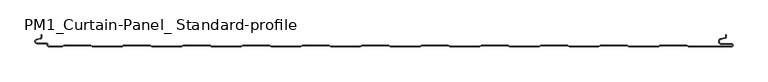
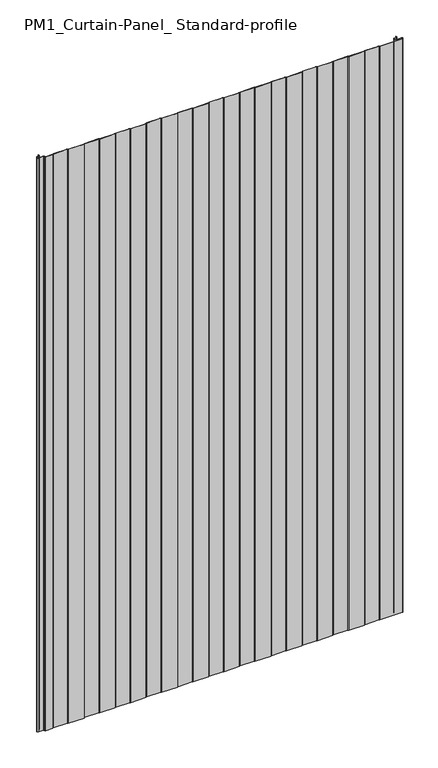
"""IFC4 building model written with IfcOpenShell, lengths in millimetres: plate geometry, PM1_Curtain-Panel_ Standard-profile : ACH_PM1_Acoustic-Sectioning-Panel_150M."""

import ifcopenshell
import ifcopenshell.guid

model = None  # the IFC model being written
_history = None  # IfcOwnerHistory: only IFC2X3 demands one
_inside = {}  # id of a spatial element -> (the spatial element, [elements in it])
_under = {}  # id of a project, library or spatial element -> (it, [spatial elements below it])
_declared = {}  # id of a project -> (the project, [libraries it declares])
_typed = {}  # id of a type object -> (the type object, [elements of that type])
_made_of = {}  # id of a material, layer set ... -> (it, [elements and type objects made of it])


def new_model(schema):
    """Start an empty IFC model of exactly this schema.

    Asked for "IFC4X3", IfcOpenShell would pick the latest addendum, in which some entities
    have other attributes; the version numbers below select the first issue.
    IFC2X3 requires an IfcOwnerHistory on every rooted entity: one is made here for all.
    """
    global model, _history
    if schema == "IFC4X3":
        model = ifcopenshell.file(schema_version=(4, 3, 0, 0))
    else:
        model = ifcopenshell.file(schema=schema)
    _inside.clear()
    _under.clear()
    _declared.clear()
    _typed.clear()
    _made_of.clear()
    _history = None
    if model.schema == "IFC2X3":
        org = make("IfcOrganization", Name="unknown")
        user = make(
            "IfcPersonAndOrganization",
            ThePerson=make("IfcPerson", FamilyName="unknown"),
            TheOrganization=org,
        )
        app = make(
            "IfcApplication",
            ApplicationDeveloper=org,
            Version="unknown",
            ApplicationFullName="unknown",
            ApplicationIdentifier="unknown",
        )
        _history = make(
            "IfcOwnerHistory",
            OwningUser=user,
            OwningApplication=app,
            ChangeAction="ADDED",
            CreationDate=0,
        )
    return model


def make(cls, **values):
    """One entity of the class cls with the attributes given. An attribute that is None is left unset."""
    return model.create_entity(
        cls, **{name: value for name, value in values.items() if value is not None}
    )


def rooted(cls, **values):
    """An entity with a GlobalId (a new one), such as an element, a storey or a relation."""
    return make(cls, GlobalId=ifcopenshell.guid.new(), OwnerHistory=_history, **values)


def si_unit(unit_type, name, prefix=None):
    """IfcSIUnit, for example si_unit("LENGTHUNIT", "METRE", prefix="MILLI")."""
    return make("IfcSIUnit", UnitType=unit_type, Prefix=prefix, Name=name)


def assignment(units):
    """IfcUnitAssignment: the units of a project."""
    return None if units is None else make("IfcUnitAssignment", Units=units)


def point(xyz):
    """IfcCartesianPoint."""
    return None if xyz is None else make("IfcCartesianPoint", Coordinates=xyz)


def direction(xyz):
    """IfcDirection."""
    return None if xyz is None else make("IfcDirection", DirectionRatios=xyz)


def frame(location, z_axis=None, x_axis=None):
    """IfcAxis2Placement3D, a coordinate frame: its origin and axes. An axis left out is left unset."""
    return make(
        "IfcAxis2Placement3D",
        Location=point(location),
        Axis=direction(z_axis),
        RefDirection=direction(x_axis),
    )


def origin():
    """The frame at (0, 0, 0) with its axes left unset."""
    return frame((0.0, 0.0, 0.0))


def place(relative_to, where):
    """IfcLocalPlacement: puts the frame where relative to a parent placement (None: the world)."""
    return make(
        "IfcLocalPlacement", PlacementRelTo=relative_to, RelativePlacement=where
    )


def context(
    kind, dimensions, precision=None, world=None, true_north=None, identifier=None
):
    """IfcGeometricRepresentationContext, for example the 3D "Model" context."""
    return make(
        "IfcGeometricRepresentationContext",
        ContextIdentifier=identifier,
        ContextType=kind,
        CoordinateSpaceDimension=dimensions,
        Precision=precision,
        WorldCoordinateSystem=world,
        TrueNorth=true_north,
    )


def project(units=None, contexts=None):
    """IfcProject with its units and contexts."""
    return rooted(
        "IfcProject",
        Name="project",
        RepresentationContexts=contexts,
        UnitsInContext=assignment(units),
    )


def spatial(cls, under=None, at=None, **own):
    """A site, building, storey or space (cls), placed at a placement, below another one or the project."""
    s = rooted(cls, ObjectPlacement=at, **own)
    if under is not None:
        _under.setdefault(under.id(), (under, []))[1].append(s)
    return s


def polyline(points):
    """IfcPolyline through the points."""
    return make("IfcPolyline", Points=[point(p) for p in points])


def circle_curve(where, radius):
    """IfcCircle in the frame where."""
    return make("IfcCircle", Position=where, Radius=radius)


def shape(context_of_items, identifier, shape_type, items):
    """IfcShapeRepresentation: the items that make up one representation, for example the "Body"."""
    return make(
        "IfcShapeRepresentation",
        ContextOfItems=context_of_items,
        RepresentationIdentifier=identifier,
        RepresentationType=shape_type,
        Items=items,
    )


def source(mapping_origin, context_of_items, identifier, shape_type, items):
    """IfcRepresentationMap: a shape defined once, which mapped items show again and again."""
    return make(
        "IfcRepresentationMap",
        MappingOrigin=mapping_origin,
        MappedRepresentation=shape(context_of_items, identifier, shape_type, items),
    )


def transform(
    local_origin,
    x_axis=None,
    y_axis=None,
    z_axis=None,
    scale=None,
    scale2=None,
    scale3=None,
    uniform=True,
):
    """IfcCartesianTransformationOperator3D, or its non-uniform kind. x_axis, y_axis, z_axis: its Axis1, 2, 3."""
    if uniform:
        return make(
            "IfcCartesianTransformationOperator3D",
            Axis1=direction(x_axis),
            Axis2=direction(y_axis),
            LocalOrigin=point(local_origin),
            Scale=scale,
            Axis3=direction(z_axis),
        )
    return make(
        "IfcCartesianTransformationOperator3DnonUniform",
        Axis1=direction(x_axis),
        Axis2=direction(y_axis),
        LocalOrigin=point(local_origin),
        Scale=scale,
        Axis3=direction(z_axis),
        Scale2=scale2,
        Scale3=scale3,
    )


def mapped(mapping_source, mapping_target):
    """IfcMappedItem: shows the shape of a source again, moved by a transform."""
    return make(
        "IfcMappedItem", MappingSource=mapping_source, MappingTarget=mapping_target
    )


def made_of(thing, what):
    """Note that an element or type object is made of a material, layer set ...; save() writes the relation."""
    if what is not None:
        _made_of.setdefault(what.id(), (what, []))[1].append(thing)
    return thing


def element(
    cls,
    number,
    at=None,
    inside=None,
    cuts=None,
    type_object=None,
    material=None,
    context=None,
    identifier="Body",
    shape_type=None,
    held_by="IfcProductDefinitionShape",
    body=None,
    shapes=None,
    **own,
):
    """One element of the class cls, such as IfcWall. Its Tag is "e" and its number.

    at: its placement. inside: the storey or other place that contains it. cuts: it is an
    opening in that element (IfcRelVoidsElement). A single representation is given by context,
    identifier, shape_type and body (its items); several are given by shapes. held_by: the class
    of the entity that holds the representations. save() writes the other relations.
    """
    e = rooted(cls, Tag="e%d" % number, ObjectPlacement=at, **own)
    if body is not None:
        shapes = [shape(context, identifier, shape_type, body)]
    if shapes is not None:
        e.Representation = make(held_by, Representations=shapes)
    if inside is not None:
        _inside.setdefault(inside.id(), (inside, []))[1].append(e)
    if cuts is not None:
        rooted(
            "IfcRelVoidsElement", RelatingBuildingElement=cuts, RelatedOpeningElement=e
        )
    if type_object is not None:
        _typed.setdefault(type_object.id(), (type_object, []))[1].append(e)
    return made_of(e, material)


def aggregate(whole, parts):
    """IfcRelAggregates: a whole, such as a stair, and the parts it consists of."""
    return rooted("IfcRelAggregates", RelatingObject=whole, RelatedObjects=parts)


def save(model, path):
    """Write the relations noted so far, then the file.

    IfcRelAggregates (storeys below a building ...), IfcRelContainedInSpatialStructure (elements
    in a storey), IfcRelDefinesByType, IfcRelAssociatesMaterial and IfcRelDeclares: one each for
    every whole, place, type object, material and project.
    """
    for whole, parts in _under.values():
        aggregate(whole, parts)
    for where, things in _inside.values():
        rooted(
            "IfcRelContainedInSpatialStructure",
            RelatedElements=things,
            RelatingStructure=where,
        )
    for kind, things in _typed.values():
        rooted("IfcRelDefinesByType", RelatedObjects=things, RelatingType=kind)
    for what, things in _made_of.values():
        rooted("IfcRelAssociatesMaterial", RelatedObjects=things, RelatingMaterial=what)
    for by, libraries in _declared.values():
        rooted("IfcRelDeclares", RelatingContext=by, RelatedDefinitions=libraries)
    model.write(path)


def plane_surface(at):
    """IfcPlane: the flat surface through the origin of the frame at, square to its z axis."""
    return make("IfcPlane", Position=at)


def cylinder_surface(at, radius):
    """IfcCylindricalSurface: all points at the distance radius from the z axis of the frame at."""
    return make("IfcCylindricalSurface", Position=at, Radius=radius)


def revolved_surface(curve, axis_point, axis_direction):
    """IfcSurfaceOfRevolution: the curve turned about the line through axis_point along axis_direction."""
    return make(
        "IfcSurfaceOfRevolution",
        SweptCurve=make("IfcArbitraryOpenProfileDef", ProfileType="CURVE", Curve=curve),
        AxisPosition=make("IfcAxis1Placement", Location=point(axis_point), Axis=direction(axis_direction)),
    )


def advanced_brep(points, edges, surfaces, faces):
    """IfcAdvancedBrep: a solid bounded by faces that lie on surfaces and meet in shared edges.

    An edge is (start, end): straight between two places in points (the first is 0);
    or (start, end, curve); or (start, end, curve, False) where it runs against its curve.
    A face is (place in surfaces, loops), or (place, loops, False) where it looks against
    its surface's normal. A loop lists edges by number (the first is 1), with a minus sign
    where the edge is run from its end to its start. The first loop is the outer one.
    """
    corners = [point(p) for p in points]
    vertices = [make("IfcVertexPoint", VertexGeometry=c) for c in corners]
    made = []
    for start, end, *more in edges:
        made.append(
            make(
                "IfcEdgeCurve",
                EdgeStart=vertices[start],
                EdgeEnd=vertices[end],
                EdgeGeometry=more[0] if more else make("IfcPolyline", Points=[corners[start], corners[end]]),
                SameSense=more[1] if len(more) > 1 else True,
            )
        )
    hull = []
    for where, loops, *sense in faces:
        bounds = []
        for j, loop in enumerate(loops):
            ring = [make("IfcOrientedEdge", EdgeElement=made[abs(k) - 1], Orientation=k > 0) for k in loop]
            bounds.append(
                make(
                    "IfcFaceOuterBound" if j == 0 else "IfcFaceBound",
                    Bound=make("IfcEdgeLoop", EdgeList=ring),
                    Orientation=True,
                )
            )
        hull.append(make("IfcAdvancedFace", Bounds=bounds, FaceSurface=surfaces[where], SameSense=sense[0] if sense else True))
    return make("IfcAdvancedBrep", Outer=make("IfcClosedShell", CfsFaces=hull))


def pm1_curtain_panel_standard_profile_bfe30813(model_context):
    return source(origin(), model_context, "Body", "AdvancedBrep", [
        advanced_brep(
        [(-562.4, -150.0, 1945.7507136), (-539.3999999, -150.0, 1945.7507136), (-536.8019223, -148.5, 1945.7507136), (-492.0019247, -148.5, 1945.7507136), (-489.4038471, -150.0, 1945.7507136), (-439.3999999, -150.0, 1945.7507136), (-436.8019223, -148.5, 1945.7507136), (-392.0019247, -148.5, 1945.7507136), (-389.4038471, -150.0, 1945.7507136), (-339.3999999, -150.0, 1945.7507136), (-336.8019223, -148.5, 1945.7507136), (-292.0019247, -148.5, 1945.7507136), (-289.4038471, -150.0, 1945.7507136), (-239.3999999, -150.0, 1945.7507136), (-236.8019223, -148.5, 1945.7507136), (-192.0019247, -148.5, 1945.7507136), (-189.4038471, -150.0, 1945.7507136), (-139.3999999, -150.0, 1945.7507136), (-136.8019223, -148.5, 1945.7507136), (-92.0019247, -148.5, 1945.7507136), (-89.4038471, -150.0, 1945.7507136), (-39.3999999, -150.0, 1945.7507136), (-36.8019223, -148.5, 1945.7507136), (7.9980753, -148.5, 1945.7507136), (10.5961529, -150.0, 1945.7507136), (60.6000001, -150.0, 1945.7507136), (63.1980777, -148.5, 1945.7507136), (107.9980753, -148.5, 1945.7507136), (110.5961529, -150.0, 1945.7507136), (160.6000001, -150.0, 1945.7507136), (163.1980777, -148.5, 1945.7507136), (207.9980753, -148.5, 1945.7507136), (210.5961529, -150.0, 1945.7507136), (260.6000001, -150.0, 1945.7507136), (263.1980777, -148.5, 1945.7507136), (307.9980753, -148.5, 1945.7507136), (310.5961529, -150.0, 1945.7507136), (360.6000001, -150.0, 1945.7507136), (363.1980777, -148.5, 1945.7507136), (407.9980753, -148.5, 1945.7507136), (410.5961529, -150.0, 1945.7507136), (460.6000001, -150.0, 1945.7507136), (463.1980777, -148.5, 1945.7507136), (507.9980753, -148.5, 1945.7507136), (510.5961529, -150.0, 1945.7507136), (583.1, -150.0, 1945.7507136), (585.6, -147.5, 1945.7507136), (583.1, -145.0, 1945.7507136), (566.1, -145.0, 1945.7507136), (565.4054075, -137.060769, 1945.7507136), (571.8514851, -135.924152, 1945.7507136), (574.0, -133.363652, 1945.7507136), (574.0, -130.0, 1945.7507136), (573.2, -130.0, 1945.7507136), (573.2, -133.363652, 1945.7507136), (571.7125666, -135.136306, 1945.7507136), (565.266489, -136.2729229, 1945.7507136), (566.1, -145.8, 1945.7507136), (583.1, -145.8, 1945.7507136), (583.1, -149.2, 1945.7507136), (510.8105122, -149.2, 1945.7507136), (508.2124346, -147.7, 1945.7507136), (462.9837184, -147.7, 1945.7507136), (460.3856408, -149.2, 1945.7507136), (410.8105122, -149.2, 1945.7507136), (408.2124346, -147.7, 1945.7507136), (362.9837184, -147.7, 1945.7507136), (360.3856408, -149.2, 1945.7507136), (310.8105122, -149.2, 1945.7507136), (308.2124346, -147.7, 1945.7507136), (262.9837184, -147.7, 1945.7507136), (260.3856408, -149.2, 1945.7507136), (210.8105122, -149.2, 1945.7507136), (208.2124346, -147.7, 1945.7507136), (162.9837184, -147.7, 1945.7507136), (160.3856408, -149.2, 1945.7507136), (110.8105122, -149.2, 1945.7507136), (108.2124346, -147.7, 1945.7507136), (62.9837184, -147.7, 1945.7507136), (60.3856408, -149.2, 1945.7507136), (10.8105122, -149.2, 1945.7507136), (8.2124346, -147.7, 1945.7507136), (-37.0162816, -147.7, 1945.7507136), (-39.6143592, -149.2, 1945.7507136), (-89.1894878, -149.2, 1945.7507136), (-91.7875654, -147.7, 1945.7507136), (-137.0162816, -147.7, 1945.7507136), (-139.6143592, -149.2, 1945.7507136), (-189.1894878, -149.2, 1945.7507136), (-191.7875654, -147.7, 1945.7507136), (-237.0162816, -147.7, 1945.7507136), (-239.6143592, -149.2, 1945.7507136), (-289.1894878, -149.2, 1945.7507136), (-291.7875654, -147.7, 1945.7507136), (-337.0162816, -147.7, 1945.7507136), (-339.6143592, -149.2, 1945.7507136), (-389.1894878, -149.2, 1945.7507136), (-391.7875654, -147.7, 1945.7507136), (-437.0162816, -147.7, 1945.7507136), (-439.6143592, -149.2, 1945.7507136), (-489.1894878, -149.2, 1945.7507136), (-491.7875654, -147.7, 1945.7507136), (-537.0162816, -147.7, 1945.7507136), (-539.6143592, -149.2, 1945.7507136), (-562.4, -149.2, 1945.7507136), (-563.6, -148.0, 1945.7507136), (-563.6, -146.6, 1945.7507136), (-566.4, -143.8, 1945.7507136), (-581.9, -143.8, 1945.7507136), (-582.529863, -138.2717638, 1945.7507136), (-576.370137, -136.849679, 1945.7507136), (-574.2, -134.121443, 1945.7507136), (-574.2, -130.0, 1945.7507136), (-575.0, -130.0, 1945.7507136), (-575.0, -134.121443, 1945.7507136), (-576.5500978, -136.0701831, 1945.7507136), (-582.7098239, -137.492268, 1945.7507136), (-581.9, -144.6, 1945.7507136), (-566.4, -144.6, 1945.7507136), (-564.4, -146.6, 1945.7507136), (-564.4, -148.0, 1945.7507136), (-562.4, -150.0, 0.0), (-564.4, -148.0, 0.0), (-564.4, -146.6, 0.0), (-566.4, -144.6, 0.0), (-581.9, -144.6, 0.0), (-582.7098239, -137.4922678, 0.0), (-576.5500979, -136.070183, 0.0), (-575.0, -134.121443, 0.0), (-575.0, -130.0, 0.0), (-574.2, -130.0, 0.0), (-574.2, -134.121443, 0.0), (-576.370137, -136.8496792, 0.0), (-582.529863, -138.271764, 0.0), (-581.9, -143.8, 0.0), (-566.4, -143.8, 0.0), (-563.6, -146.6, 0.0), (-563.6, -148.0, 0.0), (-562.4, -149.2, 0.0), (-539.6143592, -149.2, 0.0), (-537.0162816, -147.7, 0.0), (-491.7875654, -147.7, 0.0), (-489.1894878, -149.2, 0.0), (-439.6143592, -149.2, 0.0), (-437.0162816, -147.7, 0.0), (-391.7875654, -147.7, 0.0), (-389.1894878, -149.2, 0.0), (-339.6143592, -149.2, 0.0), (-337.0162816, -147.7, 0.0), (-291.7875654, -147.7, 0.0), (-289.1894878, -149.2, 0.0), (-239.6143592, -149.2, 0.0), (-237.0162816, -147.7, 0.0), (-191.7875654, -147.7, 0.0), (-189.1894878, -149.2, 0.0), (-139.6143592, -149.2, 0.0), (-137.0162816, -147.7, 0.0), (-91.7875654, -147.7, 0.0), (-89.1894878, -149.2, 0.0), (-39.6143592, -149.2, 0.0), (-37.0162816, -147.7, 0.0), (8.2124346, -147.7, 0.0), (10.8105122, -149.2, 0.0), (60.3856408, -149.2, 0.0), (62.9837184, -147.7, 0.0), (108.2124346, -147.7, 0.0), (110.8105122, -149.2, 0.0), (160.3856408, -149.2, 0.0), (162.9837184, -147.7, 0.0), (208.2124346, -147.7, 0.0), (210.8105122, -149.2, 0.0), (260.3856408, -149.2, 0.0), (262.9837184, -147.7, 0.0), (308.2124346, -147.7, 0.0), (310.8105122, -149.2, 0.0), (360.3856408, -149.2, 0.0), (362.9837184, -147.7, 0.0), (408.2124346, -147.7, 0.0), (410.8105122, -149.2, 0.0), (460.3856408, -149.2, 0.0), (462.9837184, -147.7, 0.0), (508.2124346, -147.7, 0.0), (510.8105122, -149.2, 0.0), (583.1, -149.2, 0.0), (583.1, -145.8, 0.0), (566.1, -145.8, 0.0), (565.266489, -136.2729227, 0.0), (571.7125666, -135.1363058, 0.0), (573.2, -133.363652, 0.0), (573.2, -130.0, 0.0), (574.0, -130.0, 0.0), (574.0, -133.363652, 0.0), (571.8514851, -135.9241522, 0.0), (565.4054075, -137.0607691, 0.0), (566.1, -145.0, 0.0), (583.1, -145.0, 0.0), (585.6, -147.5, 0.0), (583.1, -150.0, 0.0), (510.5961529, -150.0, 0.0), (507.9980753, -148.5, 0.0), (463.1980777, -148.5, 0.0), (460.6000001, -150.0, 0.0), (410.5961529, -150.0, 0.0), (407.9980753, -148.5, 0.0), (363.1980777, -148.5, 0.0), (360.6000001, -150.0, 0.0), (310.5961529, -150.0, 0.0), (307.9980753, -148.5, 0.0), (263.1980777, -148.5, 0.0), (260.6000001, -150.0, 0.0), (210.5961529, -150.0, 0.0), (207.9980753, -148.5, 0.0), (163.1980777, -148.5, 0.0), (160.6000001, -150.0, 0.0), (110.5961529, -150.0, 0.0), (107.9980753, -148.5, 0.0), (63.1980777, -148.5, 0.0), (60.6000001, -150.0, 0.0), (10.5961529, -150.0, 0.0), (7.9980753, -148.5, 0.0), (-36.8019223, -148.5, 0.0), (-39.3999999, -150.0, 0.0), (-89.4038471, -150.0, 0.0), (-92.0019247, -148.5, 0.0), (-136.8019223, -148.5, 0.0), (-139.3999999, -150.0, 0.0), (-189.4038471, -150.0, 0.0), (-192.0019247, -148.5, 0.0), (-236.8019223, -148.5, 0.0), (-239.3999999, -150.0, 0.0), (-289.4038471, -150.0, 0.0), (-292.0019247, -148.5, 0.0), (-336.8019223, -148.5, 0.0), (-339.3999999, -150.0, 0.0), (-389.4038471, -150.0, 0.0), (-392.0019247, -148.5, 0.0), (-436.8019223, -148.5, 0.0), (-439.3999999, -150.0, 0.0), (-489.4038471, -150.0, 0.0), (-492.0019247, -148.5, 0.0), (-536.8019223, -148.5, 0.0), (-539.3999999, -150.0, 0.0)],
        [
            (0, 1),
            (1, 2),
            (2, 3),
            (3, 4),
            (4, 5),
            (5, 6),
            (6, 7),
            (7, 8),
            (8, 9),
            (9, 10),
            (10, 11),
            (11, 12),
            (12, 13),
            (13, 14),
            (14, 15),
            (15, 16),
            (16, 17),
            (17, 18),
            (18, 19),
            (19, 20),
            (20, 21),
            (21, 22),
            (22, 23),
            (23, 24),
            (24, 25),
            (25, 26),
            (26, 27),
            (27, 28),
            (28, 29),
            (29, 30),
            (30, 31),
            (31, 32),
            (32, 33),
            (33, 34),
            (34, 35),
            (35, 36),
            (36, 37),
            (37, 38),
            (38, 39),
            (39, 40),
            (40, 41),
            (41, 42),
            (42, 43),
            (43, 44),
            (44, 45),
            (45, 46, circle_curve(frame((583.1, -147.5, 1945.7507136), z_axis=(0.0, 0.0, 1.0), x_axis=(1.0, 0.0, 0.0)), 2.5)),
            (46, 47, circle_curve(frame((583.1, -147.5, 1945.7507136), z_axis=(0.0, 0.0, 1.0), x_axis=(1.0, 0.0, 0.0)), 2.5)),
            (47, 48),
            (48, 49, circle_curve(frame((566.1, -141.0, 1945.7507136), z_axis=(0.0, 0.0, -1.0), x_axis=(1.0, 0.0, 0.0)), 4.0)),
            (49, 50),
            (50, 51, circle_curve(frame((571.4, -133.363652, 1945.7507136), z_axis=(0.0, 0.0, 1.0), x_axis=(1.0, 0.0, 0.0)), 2.6)),
            (51, 52),
            (52, 53),
            (53, 54),
            (54, 55, circle_curve(frame((571.4, -133.363652, 1945.7507136), z_axis=(0.0, 0.0, -1.0), x_axis=(1.0, 0.0, 0.0)), 1.8)),
            (55, 56),
            (56, 57, circle_curve(frame((566.1, -141.0, 1945.7507136), z_axis=(0.0, 0.0, 1.0), x_axis=(1.0, 0.0, 0.0)), 4.8)),
            (57, 58),
            (58, 59, circle_curve(frame((583.1, -147.5, 1945.7507136), z_axis=(0.0, 0.0, -1.0), x_axis=(1.0, 0.0, 0.0)), 1.7)),
            (59, 60),
            (60, 61),
            (61, 62),
            (62, 63),
            (63, 64),
            (64, 65),
            (65, 66),
            (66, 67),
            (67, 68),
            (68, 69),
            (69, 70),
            (70, 71),
            (71, 72),
            (72, 73),
            (73, 74),
            (74, 75),
            (75, 76),
            (76, 77),
            (77, 78),
            (78, 79),
            (79, 80),
            (80, 81),
            (81, 82),
            (82, 83),
            (83, 84),
            (84, 85),
            (85, 86),
            (86, 87),
            (87, 88),
            (88, 89),
            (89, 90),
            (90, 91),
            (91, 92),
            (92, 93),
            (93, 94),
            (94, 95),
            (95, 96),
            (96, 97),
            (97, 98),
            (98, 99),
            (99, 100),
            (100, 101),
            (101, 102),
            (102, 103),
            (103, 104),
            (104, 105, circle_curve(frame((-562.4, -148.0, 1945.7507136), z_axis=(0.0, 0.0, -1.0), x_axis=(1.0, 0.0, 0.0)), 1.2)),
            (105, 106),
            (106, 107, circle_curve(frame((-566.4, -146.6, 1945.7507136), z_axis=(0.0, 0.0, 1.0), x_axis=(1.0, 0.0, 0.0)), 2.8)),
            (107, 108),
            (108, 109, circle_curve(frame((-581.9, -141.0, 1945.7507136), z_axis=(0.0, 0.0, -1.0), x_axis=(1.0, 0.0, 0.0)), 2.8)),
            (109, 110),
            (110, 111, circle_curve(frame((-577.0, -134.121443, 1945.7507136), z_axis=(0.0, 0.0, 1.0), x_axis=(1.0, 0.0, 0.0)), 2.8)),
            (111, 112),
            (112, 113),
            (113, 114),
            (114, 115, circle_curve(frame((-577.0, -134.121443, 1945.7507136), z_axis=(0.0, 0.0, -1.0), x_axis=(1.0, 0.0, 0.0)), 2.0)),
            (115, 116),
            (116, 117, circle_curve(frame((-581.9, -141.0, 1945.7507136), z_axis=(0.0, 0.0, 1.0), x_axis=(1.0, 0.0, 0.0)), 3.6)),
            (117, 118),
            (118, 119, circle_curve(frame((-566.4, -146.6, 1945.7507136), z_axis=(0.0, 0.0, -1.0), x_axis=(1.0, 0.0, 0.0)), 2.0)),
            (119, 120),
            (120, 0, circle_curve(frame((-562.4, -148.0, 1945.7507136), z_axis=(0.0, 0.0, 1.0), x_axis=(1.0, 0.0, 0.0)), 2.0)),
            (121, 122, circle_curve(frame((-562.4, -148.0, 0.0), z_axis=(0.0, 0.0, -1.0), x_axis=(1.0, 0.0, 0.0)), 2.0)),
            (122, 123),
            (123, 124, circle_curve(frame((-566.4, -146.6, 0.0), z_axis=(0.0, 0.0, 1.0), x_axis=(1.0, 0.0, 0.0)), 2.0)),
            (124, 125),
            (125, 126, circle_curve(frame((-581.9, -141.0, 0.0), z_axis=(0.0, 0.0, -1.0), x_axis=(1.0, 0.0, 0.0)), 3.6)),
            (126, 127),
            (127, 128, circle_curve(frame((-577.0, -134.121443, 0.0), z_axis=(0.0, 0.0, 1.0), x_axis=(1.0, 0.0, 0.0)), 2.0)),
            (128, 129),
            (129, 130),
            (130, 131),
            (131, 132, circle_curve(frame((-577.0, -134.121443, 0.0), z_axis=(0.0, 0.0, -1.0), x_axis=(1.0, 0.0, 0.0)), 2.8)),
            (132, 133),
            (133, 134, circle_curve(frame((-581.9, -141.0, 0.0), z_axis=(0.0, 0.0, 1.0), x_axis=(1.0, 0.0, 0.0)), 2.8)),
            (134, 135),
            (135, 136, circle_curve(frame((-566.4, -146.6, 0.0), z_axis=(0.0, 0.0, -1.0), x_axis=(1.0, 0.0, 0.0)), 2.8)),
            (136, 137),
            (137, 138, circle_curve(frame((-562.4, -148.0, 0.0), z_axis=(0.0, 0.0, 1.0), x_axis=(1.0, 0.0, 0.0)), 1.2)),
            (138, 139),
            (139, 140),
            (140, 141),
            (141, 142),
            (142, 143),
            (143, 144),
            (144, 145),
            (145, 146),
            (146, 147),
            (147, 148),
            (148, 149),
            (149, 150),
            (150, 151),
            (151, 152),
            (152, 153),
            (153, 154),
            (154, 155),
            (155, 156),
            (156, 157),
            (157, 158),
            (158, 159),
            (159, 160),
            (160, 161),
            (161, 162),
            (162, 163),
            (163, 164),
            (164, 165),
            (165, 166),
            (166, 167),
            (167, 168),
            (168, 169),
            (169, 170),
            (170, 171),
            (171, 172),
            (172, 173),
            (173, 174),
            (174, 175),
            (175, 176),
            (176, 177),
            (177, 178),
            (178, 179),
            (179, 180),
            (180, 181),
            (181, 182),
            (182, 183),
            (183, 184, circle_curve(frame((583.1, -147.5, 0.0), z_axis=(0.0, 0.0, 1.0), x_axis=(1.0, 0.0, 0.0)), 1.7)),
            (184, 185),
            (185, 186, circle_curve(frame((566.1, -141.0, 0.0), z_axis=(0.0, 0.0, -1.0), x_axis=(1.0, 0.0, 0.0)), 4.8)),
            (186, 187),
            (187, 188, circle_curve(frame((571.4, -133.363652, 0.0), z_axis=(0.0, 0.0, 1.0), x_axis=(1.0, 0.0, 0.0)), 1.8)),
            (188, 189),
            (189, 190),
            (190, 191),
            (191, 192, circle_curve(frame((571.4, -133.363652, 0.0), z_axis=(0.0, 0.0, -1.0), x_axis=(1.0, 0.0, 0.0)), 2.6)),
            (192, 193),
            (193, 194, circle_curve(frame((566.1, -141.0, 0.0), z_axis=(0.0, 0.0, 1.0), x_axis=(1.0, 0.0, 0.0)), 4.0)),
            (194, 195),
            (195, 196, circle_curve(frame((583.1, -147.5, 0.0), z_axis=(0.0, 0.0, -1.0), x_axis=(1.0, 0.0, 0.0)), 2.5)),
            (196, 197, circle_curve(frame((583.1, -147.5, 0.0), z_axis=(0.0, 0.0, -1.0), x_axis=(1.0, 0.0, 0.0)), 2.5)),
            (197, 198),
            (198, 199),
            (199, 200),
            (200, 201),
            (201, 202),
            (202, 203),
            (203, 204),
            (204, 205),
            (205, 206),
            (206, 207),
            (207, 208),
            (208, 209),
            (209, 210),
            (210, 211),
            (211, 212),
            (212, 213),
            (213, 214),
            (214, 215),
            (215, 216),
            (216, 217),
            (217, 218),
            (218, 219),
            (219, 220),
            (220, 221),
            (221, 222),
            (222, 223),
            (223, 224),
            (224, 225),
            (225, 226),
            (226, 227),
            (227, 228),
            (228, 229),
            (229, 230),
            (230, 231),
            (231, 232),
            (232, 233),
            (233, 234),
            (234, 235),
            (235, 236),
            (236, 237),
            (237, 238),
            (238, 239),
            (239, 240),
            (240, 241),
            (241, 121),
            (0, 121),
            (241, 1),
            (240, 2),
            (239, 3),
            (238, 4),
            (237, 5),
            (236, 6),
            (235, 7),
            (234, 8),
            (233, 9),
            (232, 10),
            (231, 11),
            (230, 12),
            (229, 13),
            (228, 14),
            (227, 15),
            (226, 16),
            (225, 17),
            (224, 18),
            (223, 19),
            (222, 20),
            (221, 21),
            (220, 22),
            (219, 23),
            (218, 24),
            (217, 25),
            (216, 26),
            (215, 27),
            (214, 28),
            (213, 29),
            (212, 30),
            (211, 31),
            (210, 32),
            (209, 33),
            (208, 34),
            (207, 35),
            (206, 36),
            (205, 37),
            (204, 38),
            (203, 39),
            (202, 40),
            (201, 41),
            (200, 42),
            (199, 43),
            (198, 44),
            (197, 45),
            (195, 47),
            (194, 48),
            (193, 49),
            (192, 50),
            (191, 51),
            (190, 52),
            (189, 53),
            (188, 54),
            (187, 55),
            (186, 56),
            (185, 57),
            (184, 58),
            (183, 59),
            (182, 60),
            (181, 61),
            (180, 62),
            (179, 63),
            (178, 64),
            (177, 65),
            (176, 66),
            (175, 67),
            (174, 68),
            (173, 69),
            (172, 70),
            (171, 71),
            (170, 72),
            (169, 73),
            (168, 74),
            (167, 75),
            (166, 76),
            (165, 77),
            (164, 78),
            (163, 79),
            (162, 80),
            (161, 81),
            (160, 82),
            (159, 83),
            (158, 84),
            (157, 85),
            (156, 86),
            (155, 87),
            (154, 88),
            (153, 89),
            (152, 90),
            (151, 91),
            (150, 92),
            (149, 93),
            (148, 94),
            (147, 95),
            (146, 96),
            (145, 97),
            (144, 98),
            (143, 99),
            (142, 100),
            (141, 101),
            (140, 102),
            (139, 103),
            (138, 104),
            (137, 105),
            (136, 106),
            (135, 107),
            (134, 108),
            (133, 109),
            (132, 110),
            (131, 111),
            (130, 112),
            (129, 113),
            (128, 114),
            (127, 115),
            (126, 116),
            (125, 117),
            (124, 118),
            (123, 119),
            (122, 120),
        ],
        [
            plane_surface(frame((-575.0, -150.0, 1945.7507136), z_axis=(0.0, 0.0, 1.0), x_axis=(0.0, 1.0, 0.0))),
            plane_surface(frame((-575.0, -150.0, 0.0), z_axis=(0.0, 0.0, -1.0), x_axis=(0.0, 1.0, 0.0))),
            plane_surface(frame((-562.4, -150.0, 1945.7507136), z_axis=(0.0, -1.0, 0.0), x_axis=(0.0, 0.0, -1.0))),
            plane_surface(frame((-539.3999999, -150.0, 1945.7507136), z_axis=(0.49999979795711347, -0.8660255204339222, 0.0), x_axis=(0.0, 0.0, -1.0))),
            plane_surface(frame((-536.8019223, -148.5, 1945.7507136), z_axis=(0.0, -1.0, 0.0), x_axis=(0.0, 0.0, -1.0))),
            plane_surface(frame((-492.0019247, -148.5, 1945.7507136), z_axis=(-0.49999979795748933, -0.8660255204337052, 0.0), x_axis=(0.0, 0.0, -1.0))),
            plane_surface(frame((-489.4038471, -150.0, 1945.7507136), z_axis=(0.0, -1.0, 0.0), x_axis=(0.0, 0.0, -1.0))),
            plane_surface(frame((-439.3999999, -150.0, 1945.7507136), z_axis=(0.49999979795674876, -0.8660255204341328, 0.0), x_axis=(0.0, 0.0, -1.0))),
            plane_surface(frame((-436.8019223, -148.5, 1945.7507136), z_axis=(0.0, -1.0, 0.0), x_axis=(0.0, 0.0, -1.0))),
            plane_surface(frame((-392.0019247, -148.5, 1945.7507136), z_axis=(-0.4999997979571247, -0.8660255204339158, 0.0), x_axis=(0.0, 0.0, -1.0))),
            plane_surface(frame((-389.4038471, -150.0, 1945.7507136), z_axis=(0.0, -1.0, 0.0), x_axis=(0.0, 0.0, -1.0))),
            plane_surface(frame((-339.3999999, -150.0, 1945.7507136), z_axis=(0.49999979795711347, -0.8660255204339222, 0.0), x_axis=(0.0, 0.0, -1.0))),
            plane_surface(frame((-336.8019223, -148.5, 1945.7507136), z_axis=(0.0, -1.0, 0.0), x_axis=(0.0, 0.0, -1.0))),
            plane_surface(frame((-292.0019247, -148.5, 1945.7507136), z_axis=(-0.4999997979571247, -0.8660255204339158, 0.0), x_axis=(0.0, 0.0, -1.0))),
            plane_surface(frame((-289.4038471, -150.0, 1945.7507136), z_axis=(0.0, -1.0, 0.0), x_axis=(0.0, 0.0, -1.0))),
            plane_surface(frame((-239.3999999, -150.0, 1945.7507136), z_axis=(0.49999979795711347, -0.8660255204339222, 0.0), x_axis=(0.0, 0.0, -1.0))),
            plane_surface(frame((-236.8019223, -148.5, 1945.7507136), z_axis=(0.0, -1.0, 0.0), x_axis=(0.0, 0.0, -1.0))),
            plane_surface(frame((-192.0019247, -148.5, 1945.7507136), z_axis=(-0.49999979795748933, -0.8660255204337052, 0.0), x_axis=(0.0, 0.0, -1.0))),
            plane_surface(frame((-189.4038471, -150.0, 1945.7507136), z_axis=(0.0, -1.0, 0.0), x_axis=(0.0, 0.0, -1.0))),
            plane_surface(frame((-139.3999999, -150.0, 1945.7507136), z_axis=(0.49999979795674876, -0.8660255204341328, 0.0), x_axis=(0.0, 0.0, -1.0))),
            plane_surface(frame((-136.8019223, -148.5, 1945.7507136), z_axis=(0.0, -1.0, 0.0), x_axis=(0.0, 0.0, -1.0))),
            plane_surface(frame((-92.0019247, -148.5, 1945.7507136), z_axis=(-0.4999997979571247, -0.8660255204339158, 0.0), x_axis=(0.0, 0.0, -1.0))),
            plane_surface(frame((-89.4038471, -150.0, 1945.7507136), z_axis=(0.0, -1.0, 0.0), x_axis=(0.0, 0.0, -1.0))),
            plane_surface(frame((-39.3999999, -150.0, 1945.7507136), z_axis=(0.49999979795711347, -0.8660255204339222, 0.0), x_axis=(0.0, 0.0, -1.0))),
            plane_surface(frame((-36.8019223, -148.5, 1945.7507136), z_axis=(0.0, -1.0, 0.0), x_axis=(0.0, 0.0, -1.0))),
            plane_surface(frame((7.9980753, -148.5, 1945.7507136), z_axis=(-0.4999997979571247, -0.8660255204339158, 0.0), x_axis=(0.0, 0.0, -1.0))),
            plane_surface(frame((10.5961529, -150.0, 1945.7507136), z_axis=(0.0, -1.0, 0.0), x_axis=(0.0, 0.0, -1.0))),
            plane_surface(frame((60.6000001, -150.0, 1945.7507136), z_axis=(0.49999979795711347, -0.8660255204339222, 0.0), x_axis=(0.0, 0.0, -1.0))),
            plane_surface(frame((63.1980777, -148.5, 1945.7507136), z_axis=(0.0, -1.0, 0.0), x_axis=(0.0, 0.0, -1.0))),
            plane_surface(frame((107.9980753, -148.5, 1945.7507136), z_axis=(-0.49999979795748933, -0.8660255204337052, 0.0), x_axis=(0.0, 0.0, -1.0))),
            plane_surface(frame((110.5961529, -150.0, 1945.7507136), z_axis=(0.0, -1.0, 0.0), x_axis=(0.0, 0.0, -1.0))),
            plane_surface(frame((160.6000001, -150.0, 1945.7507136), z_axis=(0.49999979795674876, -0.8660255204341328, 0.0), x_axis=(0.0, 0.0, -1.0))),
            plane_surface(frame((163.1980777, -148.5, 1945.7507136), z_axis=(0.0, -1.0, 0.0), x_axis=(0.0, 0.0, -1.0))),
            plane_surface(frame((207.9980753, -148.5, 1945.7507136), z_axis=(-0.4999997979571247, -0.8660255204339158, 0.0), x_axis=(0.0, 0.0, -1.0))),
            plane_surface(frame((210.5961529, -150.0, 1945.7507136), z_axis=(0.0, -1.0, 0.0), x_axis=(0.0, 0.0, -1.0))),
            plane_surface(frame((260.6000001, -150.0, 1945.7507136), z_axis=(0.49999979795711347, -0.8660255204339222, 0.0), x_axis=(0.0, 0.0, -1.0))),
            plane_surface(frame((263.1980777, -148.5, 1945.7507136), z_axis=(0.0, -1.0, 0.0), x_axis=(0.0, 0.0, -1.0))),
            plane_surface(frame((307.9980753, -148.5, 1945.7507136), z_axis=(-0.4999997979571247, -0.8660255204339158, 0.0), x_axis=(0.0, 0.0, -1.0))),
            plane_surface(frame((310.5961529, -150.0, 1945.7507136), z_axis=(0.0, -1.0, 0.0), x_axis=(0.0, 0.0, -1.0))),
            plane_surface(frame((360.6000001, -150.0, 1945.7507136), z_axis=(0.49999979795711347, -0.8660255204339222, 0.0), x_axis=(0.0, 0.0, -1.0))),
            plane_surface(frame((363.1980777, -148.5, 1945.7507136), z_axis=(0.0, -1.0, 0.0), x_axis=(0.0, 0.0, -1.0))),
            plane_surface(frame((407.9980753, -148.5, 1945.7507136), z_axis=(-0.49999979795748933, -0.8660255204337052, 0.0), x_axis=(0.0, 0.0, -1.0))),
            plane_surface(frame((410.5961529, -150.0, 1945.7507136), z_axis=(0.0, -1.0, 0.0), x_axis=(0.0, 0.0, -1.0))),
            plane_surface(frame((460.6000001, -150.0, 1945.7507136), z_axis=(0.49999979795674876, -0.8660255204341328, 0.0), x_axis=(0.0, 0.0, -1.0))),
            plane_surface(frame((463.1980777, -148.5, 1945.7507136), z_axis=(0.0, -1.0, 0.0), x_axis=(0.0, 0.0, -1.0))),
            plane_surface(frame((507.9980753, -148.5, 1945.7507136), z_axis=(-0.4999997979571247, -0.8660255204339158, 0.0), x_axis=(0.0, 0.0, -1.0))),
            plane_surface(frame((560.890897, -150.0, 1945.7507136), z_axis=(0.0, -1.0, 0.0), x_axis=(0.0, 0.0, -1.0))),
            cylinder_surface(frame((583.1, -147.5, 1945.7507136), z_axis=(0.0, 0.0, 1.0), x_axis=(1.0, 0.0, 0.0)), 2.5),
            plane_surface(frame((583.1, -145.0, 1945.7507136), z_axis=(0.0, 1.0, 0.0), x_axis=(0.0, 0.0, -1.0))),
            revolved_surface(polyline([(570.1, -141.0, 0.0), (570.1, -141.0, 1945.7507136)]), (566.1, -141.0, 1945.7507136), (0.0, 0.0, -1.0)),
            plane_surface(frame((565.4054075, -137.0607691, 1945.7507136), z_axis=(0.17364813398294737, -0.9848077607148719, 0.0), x_axis=(0.0, 0.0, -1.0))),
            cylinder_surface(frame((571.4, -133.363652, 1945.7507136), z_axis=(0.0, 0.0, 1.0), x_axis=(1.0, 0.0, 0.0)), 2.6),
            plane_surface(frame((574.0, -133.363652, 1945.7507136), z_axis=(1.0, 0.0, 0.0), x_axis=(0.0, 0.0, -1.0))),
            plane_surface(frame((574.0, -130.0, 1945.7507136), z_axis=(0.0, 1.0, 0.0), x_axis=(0.0, 0.0, -1.0))),
            plane_surface(frame((573.2, -130.0, 1945.7507136), z_axis=(-1.0, 0.0, 0.0), x_axis=(0.0, 0.0, -1.0))),
            revolved_surface(polyline([(573.1999999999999, -133.363652, 0.0), (573.1999999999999, -133.363652, 1945.7507136)]), (571.4, -133.363652, 1945.7507136), (0.0, 0.0, -1.0)),
            plane_surface(frame((571.7125666, -135.1363058, 1945.7507136), z_axis=(-0.17364813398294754, 0.9848077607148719, 0.0), x_axis=(0.0, 0.0, -1.0))),
            cylinder_surface(frame((566.1, -141.0, 1945.7507136), z_axis=(0.0, 0.0, 1.0), x_axis=(1.0, 0.0, 0.0)), 4.8),
            plane_surface(frame((566.1, -145.8, 1945.7507136), z_axis=(0.0, -1.0, 0.0), x_axis=(0.0, 0.0, -1.0))),
            revolved_surface(polyline([(584.8000000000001, -147.5, 0.0), (584.8000000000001, -147.5, 1945.7507136)]), (583.1, -147.5, 1945.7507136), (0.0, 0.0, -1.0)),
            plane_surface(frame((560.890897, -149.2, 1945.7507136), z_axis=(0.0, 1.0, 0.0), x_axis=(0.0, 0.0, -1.0))),
            plane_surface(frame((510.8105122, -149.2, 1945.7507136), z_axis=(0.49999979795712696, 0.8660255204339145, 0.0), x_axis=(0.0, 0.0, -1.0))),
            plane_surface(frame((508.2124346, -147.7, 1945.7507136), z_axis=(0.0, 1.0, 0.0), x_axis=(0.0, 0.0, -1.0))),
            plane_surface(frame((462.9837184, -147.7, 1945.7507136), z_axis=(-0.4999997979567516, 0.8660255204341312, 0.0), x_axis=(0.0, 0.0, -1.0))),
            plane_surface(frame((460.3856408, -149.2, 1945.7507136), z_axis=(0.0, 1.0, 0.0), x_axis=(0.0, 0.0, -1.0))),
            plane_surface(frame((410.8105122, -149.2, 1945.7507136), z_axis=(0.4999997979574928, 0.8660255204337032, 0.0), x_axis=(0.0, 0.0, -1.0))),
            plane_surface(frame((408.2124346, -147.7, 1945.7507136), z_axis=(0.0, 1.0, 0.0), x_axis=(0.0, 0.0, -1.0))),
            plane_surface(frame((362.9837184, -147.7, 1945.7507136), z_axis=(-0.49999979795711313, 0.8660255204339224, 0.0), x_axis=(0.0, 0.0, -1.0))),
            plane_surface(frame((360.3856408, -149.2, 1945.7507136), z_axis=(0.0, 1.0, 0.0), x_axis=(0.0, 0.0, -1.0))),
            plane_surface(frame((310.8105122, -149.2, 1945.7507136), z_axis=(0.4999997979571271, 0.8660255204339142, 0.0), x_axis=(0.0, 0.0, -1.0))),
            plane_surface(frame((308.2124346, -147.7, 1945.7507136), z_axis=(0.0, 1.0, 0.0), x_axis=(0.0, 0.0, -1.0))),
            plane_surface(frame((262.9837184, -147.7, 1945.7507136), z_axis=(-0.49999979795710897, 0.8660255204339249, 0.0), x_axis=(0.0, 0.0, -1.0))),
            plane_surface(frame((260.3856408, -149.2, 1945.7507136), z_axis=(0.0, 1.0, 0.0), x_axis=(0.0, 0.0, -1.0))),
            plane_surface(frame((210.8105122, -149.2, 1945.7507136), z_axis=(0.4999997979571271, 0.8660255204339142, 0.0), x_axis=(0.0, 0.0, -1.0))),
            plane_surface(frame((208.2124346, -147.7, 1945.7507136), z_axis=(0.0, 1.0, 0.0), x_axis=(0.0, 0.0, -1.0))),
            plane_surface(frame((162.9837184, -147.7, 1945.7507136), z_axis=(-0.4999997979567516, 0.8660255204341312, 0.0), x_axis=(0.0, 0.0, -1.0))),
            plane_surface(frame((160.3856408, -149.2, 1945.7507136), z_axis=(0.0, 1.0, 0.0), x_axis=(0.0, 0.0, -1.0))),
            plane_surface(frame((110.8105122, -149.2, 1945.7507136), z_axis=(0.49999979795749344, 0.8660255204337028, 0.0), x_axis=(0.0, 0.0, -1.0))),
            plane_surface(frame((108.2124346, -147.7, 1945.7507136), z_axis=(0.0, 1.0, 0.0), x_axis=(0.0, 0.0, -1.0))),
            plane_surface(frame((62.9837184, -147.7, 1945.7507136), z_axis=(-0.49999979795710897, 0.8660255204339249, 0.0), x_axis=(0.0, 0.0, -1.0))),
            plane_surface(frame((60.3856408, -149.2, 1945.7507136), z_axis=(0.0, 1.0, 0.0), x_axis=(0.0, 0.0, -1.0))),
            plane_surface(frame((10.8105122, -149.2, 1945.7507136), z_axis=(0.4999997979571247, 0.8660255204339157, 0.0), x_axis=(0.0, 0.0, -1.0))),
            plane_surface(frame((8.2124346, -147.7, 1945.7507136), z_axis=(0.0, 1.0, 0.0), x_axis=(0.0, 0.0, -1.0))),
            plane_surface(frame((-37.0162816, -147.7, 1945.7507136), z_axis=(-0.49999979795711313, 0.8660255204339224, 0.0), x_axis=(0.0, 0.0, -1.0))),
            plane_surface(frame((-39.6143592, -149.2, 1945.7507136), z_axis=(0.0, 1.0, 0.0), x_axis=(0.0, 0.0, -1.0))),
            plane_surface(frame((-89.1894878, -149.2, 1945.7507136), z_axis=(0.4999997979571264, 0.8660255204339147, 0.0), x_axis=(0.0, 0.0, -1.0))),
            plane_surface(frame((-91.7875654, -147.7, 1945.7507136), z_axis=(0.0, 1.0, 0.0), x_axis=(0.0, 0.0, -1.0))),
            plane_surface(frame((-137.0162816, -147.7, 1945.7507136), z_axis=(-0.49999979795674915, 0.8660255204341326, 0.0), x_axis=(0.0, 0.0, -1.0))),
            plane_surface(frame((-139.6143592, -149.2, 1945.7507136), z_axis=(0.0, 1.0, 0.0), x_axis=(0.0, 0.0, -1.0))),
            plane_surface(frame((-189.1894878, -149.2, 1945.7507136), z_axis=(0.49999979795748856, 0.8660255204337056, 0.0), x_axis=(0.0, 0.0, -1.0))),
            plane_surface(frame((-191.7875654, -147.7, 1945.7507136), z_axis=(0.0, 1.0, 0.0), x_axis=(0.0, 0.0, -1.0))),
            plane_surface(frame((-237.0162816, -147.7, 1945.7507136), z_axis=(-0.4999997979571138, 0.866025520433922, 0.0), x_axis=(0.0, 0.0, -1.0))),
            plane_surface(frame((-239.6143592, -149.2, 1945.7507136), z_axis=(0.0, 1.0, 0.0), x_axis=(0.0, 0.0, -1.0))),
            plane_surface(frame((-289.1894878, -149.2, 1945.7507136), z_axis=(0.49999979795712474, 0.8660255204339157, 0.0), x_axis=(0.0, 0.0, -1.0))),
            plane_surface(frame((-291.7875654, -147.7, 1945.7507136), z_axis=(0.0, 1.0, 0.0), x_axis=(0.0, 0.0, -1.0))),
            plane_surface(frame((-337.0162816, -147.7, 1945.7507136), z_axis=(-0.49999979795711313, 0.8660255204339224, 0.0), x_axis=(0.0, 0.0, -1.0))),
            plane_surface(frame((-339.6143592, -149.2, 1945.7507136), z_axis=(0.0, 1.0, 0.0), x_axis=(0.0, 0.0, -1.0))),
            plane_surface(frame((-389.1894878, -149.2, 1945.7507136), z_axis=(0.49999979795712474, 0.8660255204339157, 0.0), x_axis=(0.0, 0.0, -1.0))),
            plane_surface(frame((-391.7875654, -147.7, 1945.7507136), z_axis=(0.0, 1.0, 0.0), x_axis=(0.0, 0.0, -1.0))),
            plane_surface(frame((-437.0162816, -147.7, 1945.7507136), z_axis=(-0.49999979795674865, 0.8660255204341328, 0.0), x_axis=(0.0, 0.0, -1.0))),
            plane_surface(frame((-439.6143592, -149.2, 1945.7507136), z_axis=(0.0, 1.0, 0.0), x_axis=(0.0, 0.0, -1.0))),
            plane_surface(frame((-489.1894878, -149.2, 1945.7507136), z_axis=(0.49999979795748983, 0.866025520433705, 0.0), x_axis=(0.0, 0.0, -1.0))),
            plane_surface(frame((-491.7875654, -147.7, 1945.7507136), z_axis=(0.0, 1.0, 0.0), x_axis=(0.0, 0.0, -1.0))),
            plane_surface(frame((-537.0162816, -147.7, 1945.7507136), z_axis=(-0.49999979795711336, 0.8660255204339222, 0.0), x_axis=(0.0, 0.0, -1.0))),
            plane_surface(frame((-539.6143592, -149.2, 1945.7507136), z_axis=(0.0, 1.0, 0.0), x_axis=(0.0, 0.0, -1.0))),
            revolved_surface(polyline([(-561.1999999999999, -148.0, 0.0), (-561.1999999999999, -148.0, 1945.7507136)]), (-562.4, -148.0, 1945.7507136), (0.0, 0.0, -1.0)),
            plane_surface(frame((-563.6, -148.0, 1945.7507136), z_axis=(1.0, 0.0, 0.0), x_axis=(0.0, 0.0, -1.0))),
            cylinder_surface(frame((-566.4, -146.6, 1945.7507136), z_axis=(0.0, 0.0, 1.0), x_axis=(1.0, 0.0, 0.0)), 2.8),
            plane_surface(frame((-566.4, -143.8, 1945.7507136), z_axis=(0.0, 1.0, 0.0), x_axis=(0.0, 0.0, -1.0))),
            revolved_surface(polyline([(-579.1, -141.0, 0.0), (-579.1, -141.0, 1945.7507136)]), (-581.9, -141.0, 1945.7507136), (0.0, 0.0, -1.0)),
            plane_surface(frame((-582.529863, -138.271764, 1945.7507136), z_axis=(0.2249510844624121, -0.9743700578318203, 0.0), x_axis=(0.0, 0.0, -1.0))),
            cylinder_surface(frame((-577.0, -134.121443, 1945.7507136), z_axis=(0.0, 0.0, 1.0), x_axis=(1.0, 0.0, 0.0)), 2.8),
            plane_surface(frame((-574.2, -134.121443, 1945.7507136), z_axis=(1.0, 0.0, 0.0), x_axis=(0.0, 0.0, -1.0))),
            plane_surface(frame((-574.2, -130.0, 1945.7507136), z_axis=(0.0, 1.0, 0.0), x_axis=(0.0, 0.0, -1.0))),
            plane_surface(frame((-575.0, -130.0, 1945.7507136), z_axis=(-1.0, 0.0, 0.0), x_axis=(0.0, 0.0, -1.0))),
            revolved_surface(polyline([(-575.0, -134.121443, 0.0), (-575.0, -134.121443, 1945.7507136)]), (-577.0, -134.121443, 1945.7507136), (0.0, 0.0, -1.0)),
            plane_surface(frame((-576.5500979, -136.070183, 1945.7507136), z_axis=(-0.22495108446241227, 0.9743700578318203, 0.0), x_axis=(0.0, 0.0, -1.0))),
            cylinder_surface(frame((-581.9, -141.0, 1945.7507136), z_axis=(0.0, 0.0, 1.0), x_axis=(1.0, 0.0, 0.0)), 3.6),
            plane_surface(frame((-581.9, -144.6, 1945.7507136), z_axis=(0.0, -1.0, 0.0), x_axis=(0.0, 0.0, -1.0))),
            revolved_surface(polyline([(-564.4, -146.6, 0.0), (-564.4, -146.6, 1945.7507136)]), (-566.4, -146.6, 1945.7507136), (0.0, 0.0, -1.0)),
            plane_surface(frame((-564.4, -146.6, 1945.7507136), z_axis=(-1.0, 0.0, 0.0), x_axis=(0.0, 0.0, -1.0))),
            cylinder_surface(frame((-562.4, -148.0, 1945.7507136), z_axis=(0.0, 0.0, 1.0), x_axis=(1.0, 0.0, 0.0)), 2.0),
        ],
        [
            (0, [[1, 2, 3, 4, 5, 6, 7, 8, 9, 10, 11, 12, 13, 14, 15, 16, 17, 18, 19, 20, 21, 22, 23, 24, 25, 26, 27, 28, 29, 30, 31, 32, 33, 34, 35, 36, 37, 38, 39, 40, 41, 42, 43, 44, 45, 46, 47, 48, 49, 50, 51, 52, 53, 54, 55, 56, 57, 58, 59, 60, 61, 62, 63, 64, 65, 66, 67, 68, 69, 70, 71, 72, 73, 74, 75, 76, 77, 78, 79, 80, 81, 82, 83, 84, 85, 86, 87, 88, 89, 90, 91, 92, 93, 94, 95, 96, 97, 98, 99, 100, 101, 102, 103, 104, 105, 106, 107, 108, 109, 110, 111, 112, 113, 114, 115, 116, 117, 118, 119, 120, 121]]),
            (1, [[122, 123, 124, 125, 126, 127, 128, 129, 130, 131, 132, 133, 134, 135, 136, 137, 138, 139, 140, 141, 142, 143, 144, 145, 146, 147, 148, 149, 150, 151, 152, 153, 154, 155, 156, 157, 158, 159, 160, 161, 162, 163, 164, 165, 166, 167, 168, 169, 170, 171, 172, 173, 174, 175, 176, 177, 178, 179, 180, 181, 182, 183, 184, 185, 186, 187, 188, 189, 190, 191, 192, 193, 194, 195, 196, 197, 198, 199, 200, 201, 202, 203, 204, 205, 206, 207, 208, 209, 210, 211, 212, 213, 214, 215, 216, 217, 218, 219, 220, 221, 222, 223, 224, 225, 226, 227, 228, 229, 230, 231, 232, 233, 234, 235, 236, 237, 238, 239, 240, 241, 242]]),
            (2, [[-1, 243, -242, 244]]),
            (3, [[-2, -244, -241, 245]]),
            (4, [[-3, -245, -240, 246]]),
            (5, [[-4, -246, -239, 247]]),
            (6, [[-5, -247, -238, 248]]),
            (7, [[-6, -248, -237, 249]]),
            (8, [[-7, -249, -236, 250]]),
            (9, [[-8, -250, -235, 251]]),
            (10, [[-9, -251, -234, 252]]),
            (11, [[-10, -252, -233, 253]]),
            (12, [[-11, -253, -232, 254]]),
            (13, [[-12, -254, -231, 255]]),
            (14, [[-13, -255, -230, 256]]),
            (15, [[-14, -256, -229, 257]]),
            (16, [[-15, -257, -228, 258]]),
            (17, [[-16, -258, -227, 259]]),
            (18, [[-17, -259, -226, 260]]),
            (19, [[-18, -260, -225, 261]]),
            (20, [[-19, -261, -224, 262]]),
            (21, [[-20, -262, -223, 263]]),
            (22, [[-21, -263, -222, 264]]),
            (23, [[-22, -264, -221, 265]]),
            (24, [[-23, -265, -220, 266]]),
            (25, [[-24, -266, -219, 267]]),
            (26, [[-25, -267, -218, 268]]),
            (27, [[-26, -268, -217, 269]]),
            (28, [[-27, -269, -216, 270]]),
            (29, [[-28, -270, -215, 271]]),
            (30, [[-29, -271, -214, 272]]),
            (31, [[-30, -272, -213, 273]]),
            (32, [[-31, -273, -212, 274]]),
            (33, [[-32, -274, -211, 275]]),
            (34, [[-33, -275, -210, 276]]),
            (35, [[-34, -276, -209, 277]]),
            (36, [[-35, -277, -208, 278]]),
            (37, [[-36, -278, -207, 279]]),
            (38, [[-37, -279, -206, 280]]),
            (39, [[-38, -280, -205, 281]]),
            (40, [[-39, -281, -204, 282]]),
            (41, [[-40, -282, -203, 283]]),
            (42, [[-41, -283, -202, 284]]),
            (43, [[-42, -284, -201, 285]]),
            (44, [[-43, -285, -200, 286]]),
            (45, [[-44, -286, -199, 287]]),
            (46, [[-45, -287, -198, 288]]),
            (47, [[-288, -197, -196, 289, -47, -46]]),
            (48, [[-48, -289, -195, 290]]),
            (49, [[-49, -290, -194, 291]]),
            (50, [[-50, -291, -193, 292]]),
            (51, [[-51, -292, -192, 293]]),
            (52, [[-52, -293, -191, 294]]),
            (53, [[-53, -294, -190, 295]]),
            (54, [[-54, -295, -189, 296]]),
            (55, [[-55, -296, -188, 297]]),
            (56, [[-56, -297, -187, 298]]),
            (57, [[-57, -298, -186, 299]]),
            (58, [[-58, -299, -185, 300]]),
            (59, [[-59, -300, -184, 301]]),
            (60, [[-60, -301, -183, 302]]),
            (61, [[-61, -302, -182, 303]]),
            (62, [[-62, -303, -181, 304]]),
            (63, [[-63, -304, -180, 305]]),
            (64, [[-64, -305, -179, 306]]),
            (65, [[-65, -306, -178, 307]]),
            (66, [[-66, -307, -177, 308]]),
            (67, [[-67, -308, -176, 309]]),
            (68, [[-68, -309, -175, 310]]),
            (69, [[-69, -310, -174, 311]]),
            (70, [[-70, -311, -173, 312]]),
            (71, [[-71, -312, -172, 313]]),
            (72, [[-72, -313, -171, 314]]),
            (73, [[-73, -314, -170, 315]]),
            (74, [[-74, -315, -169, 316]]),
            (75, [[-75, -316, -168, 317]]),
            (76, [[-76, -317, -167, 318]]),
            (77, [[-77, -318, -166, 319]]),
            (78, [[-78, -319, -165, 320]]),
            (79, [[-79, -320, -164, 321]]),
            (80, [[-80, -321, -163, 322]]),
            (81, [[-81, -322, -162, 323]]),
            (82, [[-82, -323, -161, 324]]),
            (83, [[-83, -324, -160, 325]]),
            (84, [[-84, -325, -159, 326]]),
            (85, [[-85, -326, -158, 327]]),
            (86, [[-86, -327, -157, 328]]),
            (87, [[-87, -328, -156, 329]]),
            (88, [[-88, -329, -155, 330]]),
            (89, [[-89, -330, -154, 331]]),
            (90, [[-90, -331, -153, 332]]),
            (91, [[-91, -332, -152, 333]]),
            (92, [[-92, -333, -151, 334]]),
            (93, [[-93, -334, -150, 335]]),
            (94, [[-94, -335, -149, 336]]),
            (95, [[-95, -336, -148, 337]]),
            (96, [[-96, -337, -147, 338]]),
            (97, [[-97, -338, -146, 339]]),
            (98, [[-98, -339, -145, 340]]),
            (99, [[-99, -340, -144, 341]]),
            (100, [[-100, -341, -143, 342]]),
            (101, [[-101, -342, -142, 343]]),
            (102, [[-102, -343, -141, 344]]),
            (103, [[-103, -344, -140, 345]]),
            (104, [[-104, -345, -139, 346]]),
            (105, [[-105, -346, -138, 347]]),
            (106, [[-106, -347, -137, 348]]),
            (107, [[-107, -348, -136, 349]]),
            (108, [[-108, -349, -135, 350]]),
            (109, [[-109, -350, -134, 351]]),
            (110, [[-110, -351, -133, 352]]),
            (111, [[-111, -352, -132, 353]]),
            (112, [[-112, -353, -131, 354]]),
            (113, [[-113, -354, -130, 355]]),
            (114, [[-114, -355, -129, 356]]),
            (115, [[-115, -356, -128, 357]]),
            (116, [[-116, -357, -127, 358]]),
            (117, [[-117, -358, -126, 359]]),
            (118, [[-118, -359, -125, 360]]),
            (119, [[-119, -360, -124, 361]]),
            (120, [[-120, -361, -123, 362]]),
            (121, [[-121, -362, -122, -243]]),
        ],
    ),
    ])


if __name__ == "__main__":
    model = new_model("IFC4")
    model_context = context("Model", 3, world=origin())
    ifc_project = project(units=[si_unit("LENGTHUNIT", "METRE", prefix="MILLI")], contexts=[model_context])
    site = spatial("IfcSite", under=ifc_project)
    building = spatial("IfcBuilding", under=site)
    placement = place(None, origin())
    pm1_curtain_panel_standard_profile_shape = pm1_curtain_panel_standard_profile_bfe30813(model_context)
    element("IfcPlate", 1, ObjectType="PM1_Curtain-Panel_ Standard-profile : ACH_PM1_Acoustic-Sectioning-Panel_150M", at=placement, inside=building, context=model_context, shape_type="MappedRepresentation", body=[
        mapped(pm1_curtain_panel_standard_profile_shape, transform((0.0, 0.0, 0.0), x_axis=(1.0, 0.0, 0.0), y_axis=(0.0, 1.0, 0.0), z_axis=(0.0, 0.0, 1.0))),
    ])
    save(model, "model.ifc")
